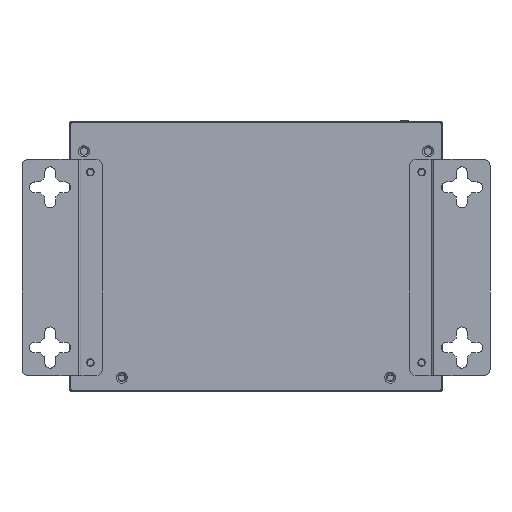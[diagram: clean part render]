
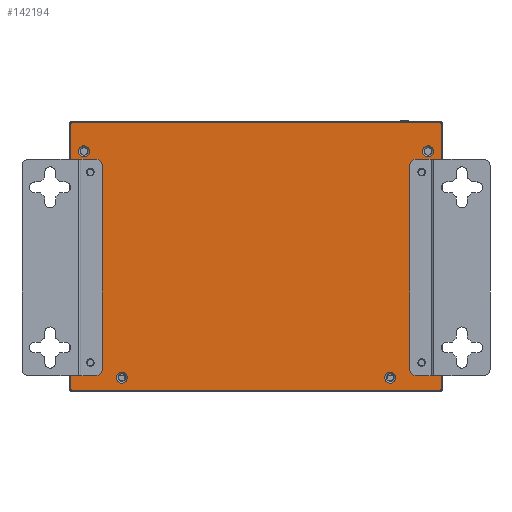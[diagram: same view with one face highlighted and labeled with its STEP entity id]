
A CAD part, front view. The second image highlights one B-rep face of the part: STEP entity #142194.
In plain terms, the highlighted planar face has unit normal (0, -1, 0).
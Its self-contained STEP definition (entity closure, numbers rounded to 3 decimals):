
#10602=CARTESIAN_POINT('',(84.8,-38.7,-104.3));
#10603=DIRECTION('',(0.,1.,0.));
#10604=DIRECTION('',(1.,0.,0.));
#10605=AXIS2_PLACEMENT_3D('',#10602,#10603,#10604);
#10610=DIRECTION('',(-1.,0.,0.));
#10611=VECTOR('',#10610,169.6);
#10612=CARTESIAN_POINT('',(84.8,-38.7,
-105.));
#10613=LINE('',#10612,#10611);
#10617=CARTESIAN_POINT('',(-84.8,-38.7,-104.3));
#10618=DIRECTION('',(0.,1.,0.));
#10619=DIRECTION('',(0.,0.,-1.));
#10620=AXIS2_PLACEMENT_3D('',#10617,#10618,#10619);
#10625=DIRECTION('',(0.,0.,1.));
#10626=VECTOR('',#10625,122.6);
#10627=CARTESIAN_POINT('',(-85.5,-38.7,
-104.3));
#10628=LINE('',#10627,#10626);
#10632=CARTESIAN_POINT('',(-84.8,-38.7,18.3));
#10633=DIRECTION('',(0.,1.,0.));
#10634=DIRECTION('',(-1.,0.,0.));
#10635=AXIS2_PLACEMENT_3D('',#10632,#10633,#10634);
#10640=DIRECTION('',(1.,0.,0.));
#10641=VECTOR('',#10640,169.6);
#10642=CARTESIAN_POINT('',(-84.8,-38.7,
19.));
#10643=LINE('',#10642,#10641);
#10647=CARTESIAN_POINT('',(84.8,-38.7,18.3));
#10648=DIRECTION('',(0.,1.,0.));
#10649=DIRECTION('',(0.,0.,1.));
#10650=AXIS2_PLACEMENT_3D('',#10647,#10648,#10649);
#10655=DIRECTION('',(0.,0.,-1.));
#10656=VECTOR('',#10655,122.6);
#10657=CARTESIAN_POINT('',(85.5,-38.7,
18.3));
#10658=LINE('',#10657,#10656);
#10662=CARTESIAN_POINT('',(74.,-38.7,-1.1));
#10663=DIRECTION('',(0.,-1.,0.));
#10664=DIRECTION('',(0.,0.,1.));
#10665=AXIS2_PLACEMENT_3D('',#10662,#10663,#10664);
#10670=DIRECTION('',(0.,0.,-1.));
#10671=VECTOR('',#10670,94.);
#10672=CARTESIAN_POINT('',(71.,-38.7,-1.1));
#10673=LINE('',#10672,#10671);
#10677=CARTESIAN_POINT('',(74.,-38.7,-95.1));
#10678=DIRECTION('',(0.,-1.,0.));
#10679=DIRECTION('',(-1.,0.,0.));
#10680=AXIS2_PLACEMENT_3D('',#10677,#10678,#10679);
#10685=DIRECTION('',(1.,0.,0.));
#10686=VECTOR('',#10685,6.9);
#10687=CARTESIAN_POINT('',(74.,-38.7,-98.1));
#10688=LINE('',#10687,#10686);
#10692=DIRECTION('',(-1.,0.,0.));
#10693=VECTOR('',#10692,6.9);
#10694=CARTESIAN_POINT('',(80.9,-38.7,1.9));
#10695=LINE('',#10694,#10693);
#10699=CARTESIAN_POINT('',(-74.,-38.7,-95.1));
#10700=DIRECTION('',(0.,-1.,0.));
#10701=DIRECTION('',(0.,0.,-1.));
#10702=AXIS2_PLACEMENT_3D('',#10699,#10700,#10701);
#10707=DIRECTION('',(0.,0.,1.));
#10708=VECTOR('',#10707,94.);
#10709=CARTESIAN_POINT('',(-71.,-38.7,-95.1));
#10710=LINE('',#10709,#10708);
#10714=CARTESIAN_POINT('',(-74.,-38.7,-1.1));
#10715=DIRECTION('',(0.,-1.,0.));
#10716=DIRECTION('',(1.,0.,0.));
#10717=AXIS2_PLACEMENT_3D('',#10714,#10715,#10716);
#10722=DIRECTION('',(-1.,0.,0.));
#10723=VECTOR('',#10722,6.9);
#10724=CARTESIAN_POINT('',(-74.,-38.7,1.9));
#10725=LINE('',#10724,#10723);
#10729=DIRECTION('',(1.,0.,0.));
#10730=VECTOR('',#10729,6.9);
#10731=CARTESIAN_POINT('',(-80.9,-38.7,-98.1));
#10732=LINE('',#10731,#10730);
#10887=CARTESIAN_POINT('',(-62.,-38.7,-99.));
#10888=DIRECTION('',(0.,1.,0.));
#10889=DIRECTION('',(1.,0.,0.));
#10890=AXIS2_PLACEMENT_3D('',#10887,#10888,#10889);
#10902=CARTESIAN_POINT('',(-62.,-38.7,-99.));
#10903=DIRECTION('',(0.,1.,0.));
#10904=DIRECTION('',(-1.,0.,0.));
#10905=AXIS2_PLACEMENT_3D('',#10902,#10903,#10904);
#16491=CARTESIAN_POINT('',(62.,-38.7,-99.));
#16492=DIRECTION('',(0.,1.,0.));
#16493=DIRECTION('',(1.,0.,0.));
#16494=AXIS2_PLACEMENT_3D('',#16491,#16492,#16493);
#16506=CARTESIAN_POINT('',(62.,-38.7,-99.));
#16507=DIRECTION('',(0.,1.,0.));
#16508=DIRECTION('',(-1.,0.,0.));
#16509=AXIS2_PLACEMENT_3D('',#16506,#16507,#16508);
#16551=CARTESIAN_POINT('',(79.5,-38.7,5.5));
#16552=DIRECTION('',(0.,1.,0.));
#16553=DIRECTION('',(-1.,0.,0.));
#16554=AXIS2_PLACEMENT_3D('',#16551,#16552,#16553);
#16566=CARTESIAN_POINT('',(79.5,-38.7,5.5));
#16567=DIRECTION('',(0.,1.,0.));
#16568=DIRECTION('',(1.,0.,0.));
#16569=AXIS2_PLACEMENT_3D('',#16566,#16567,#16568);
#16611=CARTESIAN_POINT('',(-79.5,-38.7,5.5));
#16612=DIRECTION('',(0.,1.,0.));
#16613=DIRECTION('',(-1.,0.,0.));
#16614=AXIS2_PLACEMENT_3D('',#16611,#16612,#16613);
#16626=CARTESIAN_POINT('',(-79.5,-38.7,5.5));
#16627=DIRECTION('',(0.,1.,0.));
#16628=DIRECTION('',(1.,0.,0.));
#16629=AXIS2_PLACEMENT_3D('',#16626,#16627,#16628);
#16793=DIRECTION('',(0.,0.,-1.));
#16794=VECTOR('',#16793,100.);
#16795=CARTESIAN_POINT('',(80.9,-38.7,1.9));
#16796=LINE('',#16795,#16794);
#18112=DIRECTION('',(0.,0.,1.));
#18113=VECTOR('',#18112,100.);
#18114=CARTESIAN_POINT('',(-80.9,-38.7,-98.1));
#18115=LINE('',#18114,#18113);
#134071=CARTESIAN_POINT('',(-80.9,-38.7,-98.1));
#134072=CARTESIAN_POINT('',(-80.9,-38.7,1.9));
#134073=VERTEX_POINT('',#134071);
#134074=VERTEX_POINT('',#134072);
#134075=CARTESIAN_POINT('',(85.5,-38.7,-104.3));
#134076=CARTESIAN_POINT('',(84.8,-38.7,-105.));
#134077=VERTEX_POINT('',#134075);
#134078=VERTEX_POINT('',#134076);
#134079=CARTESIAN_POINT('',(-84.8,-38.7,
-105.));
#134080=VERTEX_POINT('',#134079);
#134081=CARTESIAN_POINT('',(-85.5,-38.7,-104.3));
#134082=VERTEX_POINT('',#134081);
#134083=CARTESIAN_POINT('',(-85.5,-38.7,
18.3));
#134084=VERTEX_POINT('',#134083);
#134085=CARTESIAN_POINT('',(-84.8,-38.7,19.));
#134086=VERTEX_POINT('',#134085);
#134087=CARTESIAN_POINT('',(84.8,-38.7,
19.));
#134088=VERTEX_POINT('',#134087);
#134089=CARTESIAN_POINT('',(85.5,-38.7,18.3));
#134090=VERTEX_POINT('',#134089);
#134091=CARTESIAN_POINT('',(74.,-38.7,1.9));
#134092=CARTESIAN_POINT('',(71.,-38.7,-1.1));
#134093=VERTEX_POINT('',#134091);
#134094=VERTEX_POINT('',#134092);
#134095=CARTESIAN_POINT('',(71.,-38.7,-95.1));
#134096=VERTEX_POINT('',#134095);
#134097=CARTESIAN_POINT('',(74.,-38.7,-98.1));
#134098=VERTEX_POINT('',#134097);
#134099=CARTESIAN_POINT('',(80.9,-38.7,-98.1));
#134100=VERTEX_POINT('',#134099);
#134101=CARTESIAN_POINT('',(80.9,-38.7,1.9));
#134102=VERTEX_POINT('',#134101);
#134103=CARTESIAN_POINT('',(-74.,-38.7,-98.1));
#134104=CARTESIAN_POINT('',(-71.,-38.7,-95.1));
#134105=VERTEX_POINT('',#134103);
#134106=VERTEX_POINT('',#134104);
#134107=CARTESIAN_POINT('',(-71.,-38.7,-1.1));
#134108=VERTEX_POINT('',#134107);
#134109=CARTESIAN_POINT('',(-74.,-38.7,1.9));
#134110=VERTEX_POINT('',#134109);
#134187=CARTESIAN_POINT('',(59.45,-38.7,-99.));
#134188=VERTEX_POINT('',#134187);
#134189=CARTESIAN_POINT('',(64.55,-38.7,-99.));
#134190=VERTEX_POINT('',#134189);
#134195=CARTESIAN_POINT('',(-64.55,-38.7,-99.));
#134196=VERTEX_POINT('',#134195);
#134197=CARTESIAN_POINT('',(-59.45,-38.7,-99.));
#134198=VERTEX_POINT('',#134197);
#134200=CARTESIAN_POINT('',(76.95,-38.7,5.5));
#134202=VERTEX_POINT('',#134200);
#134204=CARTESIAN_POINT('',(82.05,-38.7,5.5));
#134206=VERTEX_POINT('',#134204);
#134208=CARTESIAN_POINT('',(-82.05,-38.7,5.5));
#134210=VERTEX_POINT('',#134208);
#134212=CARTESIAN_POINT('',(-76.95,-38.7,5.5));
#134214=VERTEX_POINT('',#134212);
#142120=CARTESIAN_POINT('',(0.,-38.7,-43.));
#142121=DIRECTION('',(0.,1.,0.));
#142122=DIRECTION('',(-1.,0.,0.));
#142123=AXIS2_PLACEMENT_3D('',#142120,#142121,#142122);
#142124=PLANE('',#142123);
#142126=ORIENTED_EDGE('',*,*,#142125,.T.);
#142128=ORIENTED_EDGE('',*,*,#142127,.T.);
#142130=ORIENTED_EDGE('',*,*,#142129,.T.);
#142132=ORIENTED_EDGE('',*,*,#142131,.T.);
#142134=ORIENTED_EDGE('',*,*,#142133,.T.);
#142135=ORIENTED_EDGE('',*,*,#142110,.T.);
#142137=ORIENTED_EDGE('',*,*,#142136,.T.);
#142139=ORIENTED_EDGE('',*,*,#142138,.T.);
#142140=EDGE_LOOP('',(#142126,#142128,#142130,#142132,#142134,#142135,#142137,
#142139));
#142141=FACE_OUTER_BOUND('',#142140,.F.);
#142143=ORIENTED_EDGE('',*,*,#142142,.F.);
#142145=ORIENTED_EDGE('',*,*,#142144,.F.);
#142146=EDGE_LOOP('',(#142143,#142145));
#142147=FACE_BOUND('',#142146,.F.);
#142149=ORIENTED_EDGE('',*,*,#142148,.F.);
#142151=ORIENTED_EDGE('',*,*,#142150,.F.);
#142152=EDGE_LOOP('',(#142149,#142151));
#142153=FACE_BOUND('',#142152,.F.);
#142155=ORIENTED_EDGE('',*,*,#142154,.F.);
#142157=ORIENTED_EDGE('',*,*,#142156,.F.);
#142158=EDGE_LOOP('',(#142155,#142157));
#142159=FACE_BOUND('',#142158,.F.);
#142161=ORIENTED_EDGE('',*,*,#142160,.F.);
#142163=ORIENTED_EDGE('',*,*,#142162,.F.);
#142164=EDGE_LOOP('',(#142161,#142163));
#142165=FACE_BOUND('',#142164,.F.);
#142167=ORIENTED_EDGE('',*,*,#142166,.T.);
#142169=ORIENTED_EDGE('',*,*,#142168,.T.);
#142171=ORIENTED_EDGE('',*,*,#142170,.T.);
#142173=ORIENTED_EDGE('',*,*,#142172,.T.);
#142175=ORIENTED_EDGE('',*,*,#142174,.F.);
#142177=ORIENTED_EDGE('',*,*,#142176,.T.);
#142178=EDGE_LOOP('',(#142167,#142169,#142171,#142173,#142175,#142177));
#142179=FACE_BOUND('',#142178,.F.);
#142181=ORIENTED_EDGE('',*,*,#142180,.T.);
#142183=ORIENTED_EDGE('',*,*,#142182,.T.);
#142185=ORIENTED_EDGE('',*,*,#142184,.T.);
#142187=ORIENTED_EDGE('',*,*,#142186,.T.);
#142189=ORIENTED_EDGE('',*,*,#142188,.F.);
#142191=ORIENTED_EDGE('',*,*,#142190,.T.);
#142192=EDGE_LOOP('',(#142181,#142183,#142185,#142187,#142189,#142191));
#142193=FACE_BOUND('',#142192,.F.);
#10606=CIRCLE('',#10605,0.7);
#10621=CIRCLE('',#10620,0.7);
#10636=CIRCLE('',#10635,0.7);
#10651=CIRCLE('',#10650,0.7);
#10666=CIRCLE('',#10665,3.);
#10681=CIRCLE('',#10680,3.);
#10703=CIRCLE('',#10702,3.);
#10718=CIRCLE('',#10717,3.);
#10891=CIRCLE('',#10890,2.55);
#10906=CIRCLE('',#10905,2.55);
#16495=CIRCLE('',#16494,2.55);
#16510=CIRCLE('',#16509,2.55);
#16555=CIRCLE('',#16554,2.55);
#16570=CIRCLE('',#16569,2.55);
#16615=CIRCLE('',#16614,2.55);
#16630=CIRCLE('',#16629,2.55);
#142110=EDGE_CURVE('',#134086,#134088,#10643,.T.);
#142125=EDGE_CURVE('',#134077,#134078,#10606,.T.);
#142127=EDGE_CURVE('',#134078,#134080,#10613,.T.);
#142129=EDGE_CURVE('',#134080,#134082,#10621,.T.);
#142131=EDGE_CURVE('',#134082,#134084,#10628,.T.);
#142133=EDGE_CURVE('',#134084,#134086,#10636,.T.);
#142136=EDGE_CURVE('',#134088,#134090,#10651,.T.);
#142138=EDGE_CURVE('',#134090,#134077,#10658,.T.);
#142142=EDGE_CURVE('',#134198,#134196,#10891,.T.);
#142144=EDGE_CURVE('',#134196,#134198,#10906,.T.);
#142148=EDGE_CURVE('',#134214,#134210,#16630,.T.);
#142150=EDGE_CURVE('',#134210,#134214,#16615,.T.);
#142154=EDGE_CURVE('',#134190,#134188,#16495,.T.);
#142156=EDGE_CURVE('',#134188,#134190,#16510,.T.);
#142160=EDGE_CURVE('',#134206,#134202,#16570,.T.);
#142162=EDGE_CURVE('',#134202,#134206,#16555,.T.);
#142166=EDGE_CURVE('',#134093,#134094,#10666,.T.);
#142168=EDGE_CURVE('',#134094,#134096,#10673,.T.);
#142170=EDGE_CURVE('',#134096,#134098,#10681,.T.);
#142172=EDGE_CURVE('',#134098,#134100,#10688,.T.);
#142174=EDGE_CURVE('',#134102,#134100,#16796,.T.);
#142176=EDGE_CURVE('',#134102,#134093,#10695,.T.);
#142180=EDGE_CURVE('',#134105,#134106,#10703,.T.);
#142182=EDGE_CURVE('',#134106,#134108,#10710,.T.);
#142184=EDGE_CURVE('',#134108,#134110,#10718,.T.);
#142186=EDGE_CURVE('',#134110,#134074,#10725,.T.);
#142188=EDGE_CURVE('',#134073,#134074,#18115,.T.);
#142190=EDGE_CURVE('',#134073,#134105,#10732,.T.);
#142194=ADVANCED_FACE('',(#142141,#142147,#142153,#142159,#142165,#142179,
#142193),#142124,.F.);
